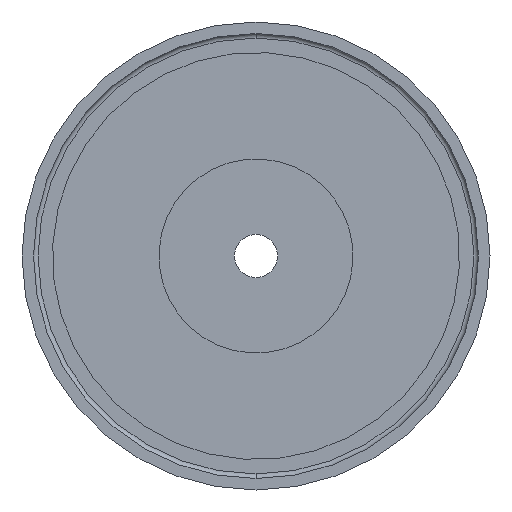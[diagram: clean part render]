
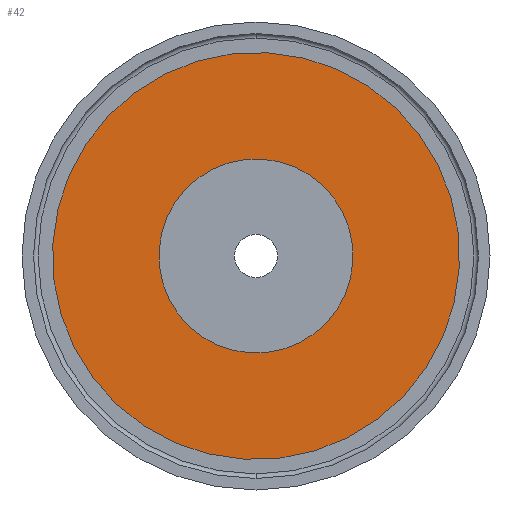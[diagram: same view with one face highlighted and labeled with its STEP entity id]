
A CAD part, front view. The second image highlights one B-rep face of the part: STEP entity #42.
In plain terms, the highlighted planar face has unit normal (0, -1, 0).
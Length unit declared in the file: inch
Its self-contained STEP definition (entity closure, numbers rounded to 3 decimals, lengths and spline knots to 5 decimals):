
#3 = ORIENTED_EDGE ( 'NONE', *, *, #247, .F. ) ;
#25 = PLANE ( 'NONE',  #532 ) ;
#27 = CARTESIAN_POINT ( 'NONE',  ( -0.48543, -0.2875, -0.73999 ) ) ;
#32 = CARTESIAN_POINT ( 'NONE',  ( 0.23147, -0.2875, 0.35285 ) ) ;
#34 = CARTESIAN_POINT ( 'NONE',  ( 0., -0.2875, 0. ) ) ;
#38 = CIRCLE ( 'NONE', #383, 0.422 ) ;
#42 = ADVANCED_FACE ( 'NONE', ( #286, #153 ), #25, .F. ) ;
#61 = VERTEX_POINT ( 'NONE', #27 ) ;
#83 = CIRCLE ( 'NONE', #132, 0.885 ) ;
#87 = DIRECTION ( 'NONE',  ( -0.549, 0., -0.836 ) ) ;
#125 = CARTESIAN_POINT ( 'NONE',  ( 0., -0.2875, 0. ) ) ;
#132 = AXIS2_PLACEMENT_3D ( 'NONE', #34, #320, #87 ) ;
#153 = FACE_BOUND ( 'NONE', #336, .T. ) ;
#165 = DIRECTION ( 'NONE',  ( -0.549, 0., -0.836 ) ) ;
#167 = DIRECTION ( 'NONE',  ( -0.549, 0., -0.836 ) ) ;
#181 = CARTESIAN_POINT ( 'NONE',  ( 0., -0.2875, 0. ) ) ;
#188 = CARTESIAN_POINT ( 'NONE',  ( -0.23147, -0.2875, -0.35285 ) ) ;
#211 = CARTESIAN_POINT ( 'NONE',  ( 0., -0.2875, 0. ) ) ;
#238 = EDGE_CURVE ( 'NONE', #523, #296, #38, .T. ) ;
#247 = EDGE_CURVE ( 'NONE', #382, #61, #83, .T. ) ;
#268 = EDGE_LOOP ( 'NONE', ( #3, #513 ) ) ;
#275 = EDGE_CURVE ( 'NONE', #61, #382, #302, .T. ) ;
#286 = FACE_OUTER_BOUND ( 'NONE', #268, .T. ) ;
#296 = VERTEX_POINT ( 'NONE', #32 ) ;
#302 = CIRCLE ( 'NONE', #438, 0.885 ) ;
#315 = DIRECTION ( 'NONE',  ( 0., 1., 0. ) ) ;
#320 = DIRECTION ( 'NONE',  ( 0., 1., 0. ) ) ;
#329 = AXIS2_PLACEMENT_3D ( 'NONE', #181, #364, #501 ) ;
#336 = EDGE_LOOP ( 'NONE', ( #482, #414 ) ) ;
#345 = DIRECTION ( 'NONE',  ( -0.549, 0., -0.836 ) ) ;
#352 = CARTESIAN_POINT ( 'NONE',  ( 0., -0.2875, 0. ) ) ;
#364 = DIRECTION ( 'NONE',  ( 0., 1., 0. ) ) ;
#381 = CIRCLE ( 'NONE', #329, 0.422 ) ;
#382 = VERTEX_POINT ( 'NONE', #546 ) ;
#383 = AXIS2_PLACEMENT_3D ( 'NONE', #352, #454, #165 ) ;
#414 = ORIENTED_EDGE ( 'NONE', *, *, #238, .T. ) ;
#428 = EDGE_CURVE ( 'NONE', #296, #523, #381, .T. ) ;
#438 = AXIS2_PLACEMENT_3D ( 'NONE', #125, #450, #167 ) ;
#450 = DIRECTION ( 'NONE',  ( 0., 1., 0. ) ) ;
#454 = DIRECTION ( 'NONE',  ( 0., 1., 0. ) ) ;
#482 = ORIENTED_EDGE ( 'NONE', *, *, #428, .T. ) ;
#501 = DIRECTION ( 'NONE',  ( -0.549, 0., -0.836 ) ) ;
#513 = ORIENTED_EDGE ( 'NONE', *, *, #275, .F. ) ;
#523 = VERTEX_POINT ( 'NONE', #188 ) ;
#532 = AXIS2_PLACEMENT_3D ( 'NONE', #211, #315, #345 ) ;
#546 = CARTESIAN_POINT ( 'NONE',  ( 0.48543, -0.2875, 0.73999 ) ) ;
